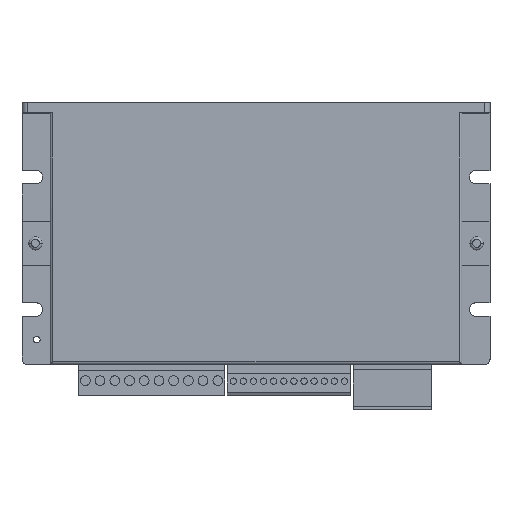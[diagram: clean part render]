
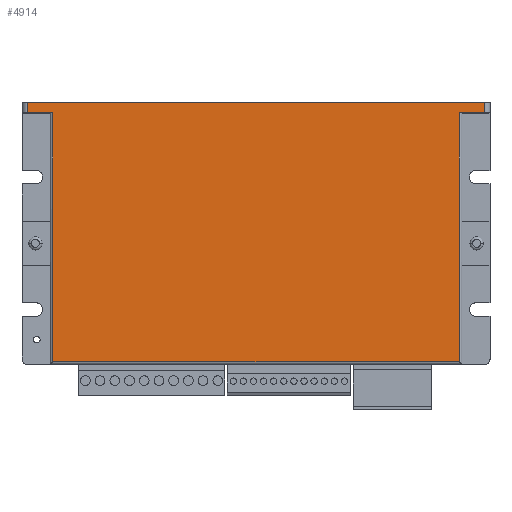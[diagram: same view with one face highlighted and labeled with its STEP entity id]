
A CAD part, top view. The second image highlights one B-rep face of the part: STEP entity #4914.
In plain terms, the highlighted planar face has unit normal (0, 0, 1).
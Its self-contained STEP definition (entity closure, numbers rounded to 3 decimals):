
#107 = VECTOR ( 'NONE', #4394, 1000. ) ;
#174 = DIRECTION ( 'NONE',  ( 0., 0., -1. ) ) ;
#230 = DIRECTION ( 'NONE',  ( 0., -1., 0. ) ) ;
#561 = VECTOR ( 'NONE', #8125, 1000. ) ;
#797 = CARTESIAN_POINT ( 'NONE',  ( 85.5, 49., 33. ) ) ;
#844 = VERTEX_POINT ( 'NONE', #3767 ) ;
#1224 = EDGE_CURVE ( 'NONE', #6671, #2278, #7309, .T. ) ;
#1242 = LINE ( 'NONE', #7697, #1357 ) ;
#1276 = CARTESIAN_POINT ( 'NONE',  ( 76., -48., 33. ) ) ;
#1305 = CARTESIAN_POINT ( 'NONE',  ( 0., 0., 33. ) ) ;
#1357 = VECTOR ( 'NONE', #3038, 1000. ) ;
#1415 = CARTESIAN_POINT ( 'NONE',  ( -76., 0., 33. ) ) ;
#1512 = EDGE_LOOP ( 'NONE', ( #3949, #5344, #11771, #10359, #10508, #11021, #9090, #9909 ) ) ;
#2278 = VERTEX_POINT ( 'NONE', #797 ) ;
#2554 = CARTESIAN_POINT ( 'NONE',  ( 76., 0., 33. ) ) ;
#2728 = AXIS2_PLACEMENT_3D ( 'NONE', #1305, #174, #8477 ) ;
#2969 = VECTOR ( 'NONE', #230, 1000. ) ;
#3038 = DIRECTION ( 'NONE',  ( -1., 0., 0. ) ) ;
#3040 = DIRECTION ( 'NONE',  ( 0., -1., 0. ) ) ;
#3064 = VECTOR ( 'NONE', #3040, 1000. ) ;
#3410 = LINE ( 'NONE', #11541, #3685 ) ;
#3464 = LINE ( 'NONE', #4478, #561 ) ;
#3573 = DIRECTION ( 'NONE',  ( -1., 0., 0. ) ) ;
#3665 = EDGE_CURVE ( 'NONE', #844, #5250, #9311, .T. ) ;
#3685 = VECTOR ( 'NONE', #7890, 1000. ) ;
#3767 = CARTESIAN_POINT ( 'NONE',  ( -85.5, 49., 33. ) ) ;
#3942 = EDGE_CURVE ( 'NONE', #8602, #10582, #5593, .T. ) ;
#3949 = ORIENTED_EDGE ( 'NONE', *, *, #8231, .F. ) ;
#3978 = CARTESIAN_POINT ( 'NONE',  ( -85.5, 45., 33. ) ) ;
#4356 = CARTESIAN_POINT ( 'NONE',  ( 76., 45., 33. ) ) ;
#4394 = DIRECTION ( 'NONE',  ( 0., 1., 0. ) ) ;
#4478 = CARTESIAN_POINT ( 'NONE',  ( -87.5, 45., 33. ) ) ;
#4885 = PLANE ( 'NONE',  #2728 ) ;
#4914 = ADVANCED_FACE ( 'NONE', ( #11114 ), #4885, .F. ) ;
#5250 = VERTEX_POINT ( 'NONE', #3978 ) ;
#5344 = ORIENTED_EDGE ( 'NONE', *, *, #1224, .T. ) ;
#5593 = LINE ( 'NONE', #2554, #107 ) ;
#5604 = VERTEX_POINT ( 'NONE', #8277 ) ;
#5794 = LINE ( 'NONE', #1415, #3064 ) ;
#6140 = VERTEX_POINT ( 'NONE', #11461 ) ;
#6671 = VERTEX_POINT ( 'NONE', #10850 ) ;
#7309 = LINE ( 'NONE', #8142, #7447 ) ;
#7447 = VECTOR ( 'NONE', #11137, 1000. ) ;
#7616 = EDGE_CURVE ( 'NONE', #5604, #8602, #3410, .T. ) ;
#7642 = VECTOR ( 'NONE', #3573, 1000. ) ;
#7697 = CARTESIAN_POINT ( 'NONE',  ( 87.5, 45., 33. ) ) ;
#7890 = DIRECTION ( 'NONE',  ( 1., 0., 0. ) ) ;
#8117 = LINE ( 'NONE', #11769, #7642 ) ;
#8125 = DIRECTION ( 'NONE',  ( -1., 0., 0. ) ) ;
#8142 = CARTESIAN_POINT ( 'NONE',  ( 85.5, 0., 33. ) ) ;
#8231 = EDGE_CURVE ( 'NONE', #6671, #10582, #1242, .T. ) ;
#8277 = CARTESIAN_POINT ( 'NONE',  ( -76., -48., 33. ) ) ;
#8414 = CARTESIAN_POINT ( 'NONE',  ( -85.5, 0., 33. ) ) ;
#8477 = DIRECTION ( 'NONE',  ( 0., -1., 0. ) ) ;
#8602 = VERTEX_POINT ( 'NONE', #1276 ) ;
#9090 = ORIENTED_EDGE ( 'NONE', *, *, #7616, .T. ) ;
#9150 = EDGE_CURVE ( 'NONE', #2278, #844, #8117, .T. ) ;
#9311 = LINE ( 'NONE', #8414, #2969 ) ;
#9381 = EDGE_CURVE ( 'NONE', #6140, #5604, #5794, .T. ) ;
#9909 = ORIENTED_EDGE ( 'NONE', *, *, #3942, .T. ) ;
#10359 = ORIENTED_EDGE ( 'NONE', *, *, #3665, .T. ) ;
#10508 = ORIENTED_EDGE ( 'NONE', *, *, #10633, .F. ) ;
#10582 = VERTEX_POINT ( 'NONE', #4356 ) ;
#10633 = EDGE_CURVE ( 'NONE', #6140, #5250, #3464, .T. ) ;
#10850 = CARTESIAN_POINT ( 'NONE',  ( 85.5, 45., 33. ) ) ;
#11021 = ORIENTED_EDGE ( 'NONE', *, *, #9381, .T. ) ;
#11114 = FACE_OUTER_BOUND ( 'NONE', #1512, .T. ) ;
#11137 = DIRECTION ( 'NONE',  ( 0., 1., 0. ) ) ;
#11461 = CARTESIAN_POINT ( 'NONE',  ( -76., 45., 33. ) ) ;
#11541 = CARTESIAN_POINT ( 'NONE',  ( 0., -48., 33. ) ) ;
#11769 = CARTESIAN_POINT ( 'NONE',  ( -87.5, 49., 33. ) ) ;
#11771 = ORIENTED_EDGE ( 'NONE', *, *, #9150, .T. ) ;
